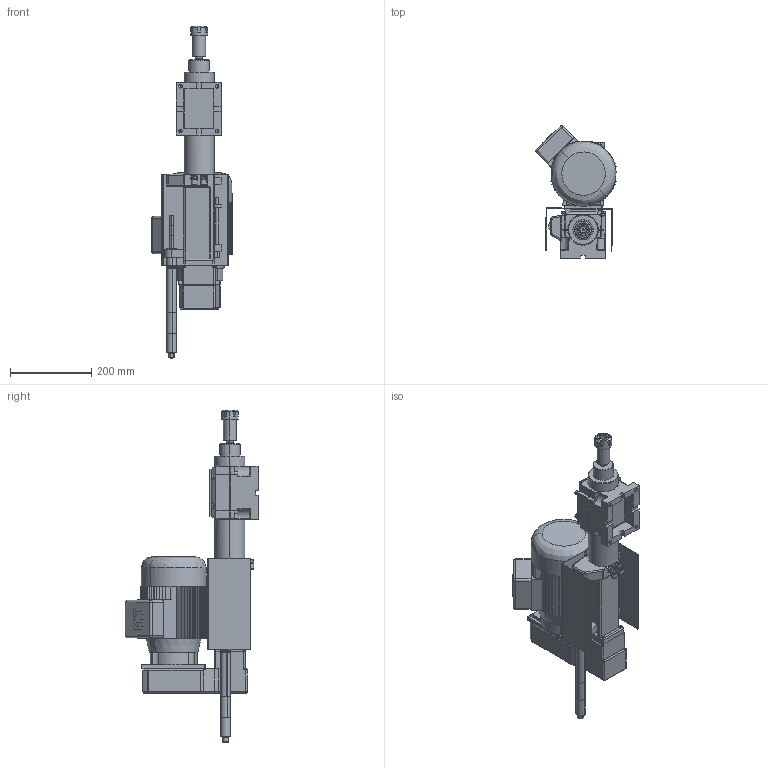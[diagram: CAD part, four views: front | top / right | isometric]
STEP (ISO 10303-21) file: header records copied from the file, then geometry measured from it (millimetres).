
FILE_DESCRIPTION (( 'STEP AP214' ), '1' );
FILE_NAME ('BPR3P-110.STEP', '2026-04-13T04:35:17', ( '' ), ( '' ), 'SwSTEP 2.0', 'SolidWorks 2014', '' );
FILE_SCHEMA (( 'AUTOMOTIVE_DESIGN' ));
Length unit declared in the file: millimetre
Products named in the file (15): LC-74; AS-40085A; HYDROCHECK-75MM; AS-30081A; AS-40072A; AIR-CONNECTION; HYDROCHECK-50MM; HYDROCHECK-25MM; ER-20; AS-40102; ER-25; MOTOR; BPR3P-110-SPINDLE; BPR3P-110; BPR3P-BELTHOUSING
Assembly tree (16 placements, depth 2):
  BPR3P-110
    BPR3P-110-SPINDLE
    BPR3P-BELTHOUSING
    LC-74
    ER-20
    ER-25
    HYDROCHECK-25MM
    HYDROCHECK-50MM
    HYDROCHECK-75MM
    AS-40102  x2
    AS-30081A
    AS-40072A
    AIR-CONNECTION  x2
    MOTOR
    AS-40085A
Bounding box: 198.02 x 327.52 x 816.9 mm (x, y, z)
Volume: 9526533.3 mm3; surface area: 1018915.7 mm2
Topology: 21 solids, 30 shells, 1429 faces, 3542 edges, 2176 vertices
Faces by surface type: plane 708, cylinder 505, cone 140, bspline 53, sphere 13, torus 10
Entity records: 51831 total; most frequent: CARTESIAN_POINT 8651, DIRECTION 6884, ORIENTED_EDGE 6550, EDGE_CURVE 3290, AXIS2_PLACEMENT_3D 2471, VERTEX_POINT 2065, LINE 1942, VECTOR 1942
